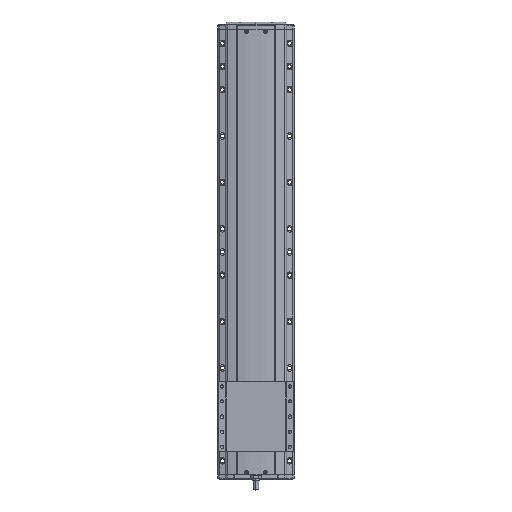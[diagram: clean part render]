
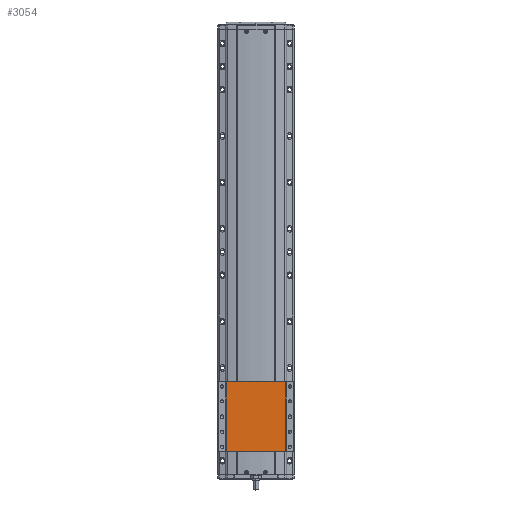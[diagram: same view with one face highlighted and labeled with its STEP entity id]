
A CAD part, top view. The second image highlights one B-rep face of the part: STEP entity #3054.
In plain terms, the highlighted planar face has unit normal (0, 0, 1).
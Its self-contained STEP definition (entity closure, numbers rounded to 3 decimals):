
#3054=ADVANCED_FACE('',(#7512),#7513,.F.);
#7512=FACE_OUTER_BOUND('',#14054,.T.);
#7513=PLANE('',#14055);
#14054=EDGE_LOOP('',(#24674,#24675,#24676,#24677));
#14055=AXIS2_PLACEMENT_3D('',#24678,#24679,#24680);
#24674=ORIENTED_EDGE('',*,*,#40980,.F.);
#24675=ORIENTED_EDGE('',*,*,#40981,.F.);
#24676=ORIENTED_EDGE('',*,*,#40458,.F.);
#24677=ORIENTED_EDGE('',*,*,#40982,.T.);
#24678=CARTESIAN_POINT('',(-600.,22.222,51.5));
#24679=DIRECTION('',(0.,0.,-1.0));
#24680=DIRECTION('',(-1.0,0.,0.));
#40458=EDGE_CURVE('',#49036,#49038,#49039,.T.);
#40980=EDGE_CURVE('',#49913,#49914,#49915,.T.);
#40981=EDGE_CURVE('',#49038,#49913,#49916,.T.);
#40982=EDGE_CURVE('',#49036,#49914,#49917,.T.);
#49036=VERTEX_POINT('',#61058);
#49038=VERTEX_POINT('',#61060);
#49039=LINE('',#61061,#61062);
#49913=VERTEX_POINT('',#62353);
#49914=VERTEX_POINT('',#62354);
#49915=LINE('',#62355,#62356);
#49916=LINE('',#62357,#62358);
#49917=LINE('',#62359,#62360);
#61058=CARTESIAN_POINT('',(-535.624,22.222,51.5));
#61060=CARTESIAN_POINT('',(-664.376,22.222,51.5));
#61061=CARTESIAN_POINT('',(-535.624,22.222,51.5));
#61062=VECTOR('',#74369,10.0);
#62353=CARTESIAN_POINT('',(-664.376,172.222,51.5));
#62354=CARTESIAN_POINT('',(-535.624,172.222,51.5));
#62355=CARTESIAN_POINT('',(-535.624,172.222,51.5));
#62356=VECTOR('',#75049,10.0);
#62357=CARTESIAN_POINT('',(-664.376,22.222,51.5));
#62358=VECTOR('',#75050,10.0);
#62359=CARTESIAN_POINT('',(-535.624,22.222,51.5));
#62360=VECTOR('',#75051,10.0);
#74369=DIRECTION('',(-1.0,0.,0.));
#75049=DIRECTION('',(1.0,0.,0.));
#75050=DIRECTION('',(0.,1.0,0.));
#75051=DIRECTION('',(0.,1.0,0.));
